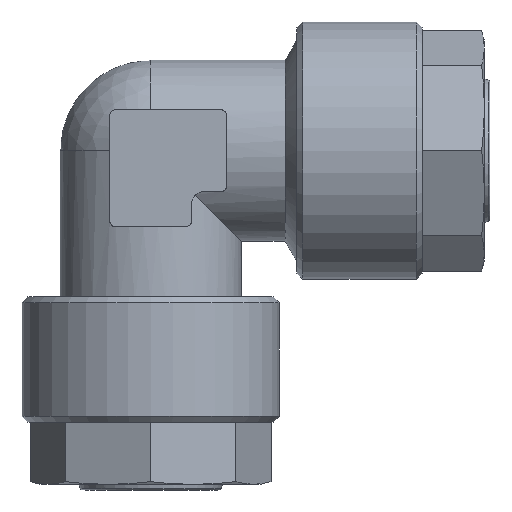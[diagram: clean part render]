
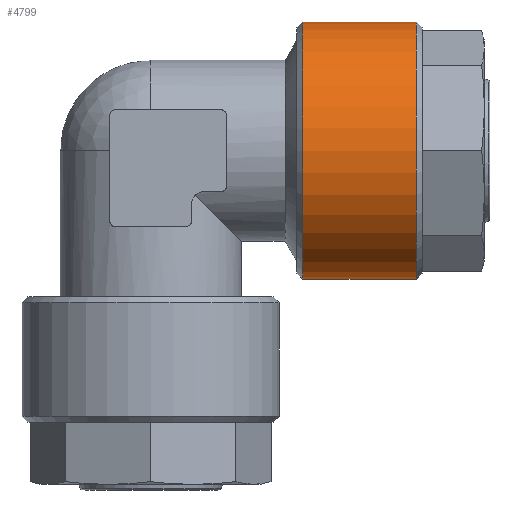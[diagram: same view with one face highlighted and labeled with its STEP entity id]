
A CAD part, front view. The second image highlights one B-rep face of the part: STEP entity #4799.
In plain terms, the highlighted cylindrical face has radius 11 mm (diameter 22 mm), a full revolution.
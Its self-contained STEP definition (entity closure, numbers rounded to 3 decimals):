
#2965=ORIENTED_EDGE('',*,*,#3492,.F.);
#2966=ORIENTED_EDGE('',*,*,#3493,.F.);
#3139=CIRCLE('',#4610,11.);
#3140=CIRCLE('',#4612,11.);
#3281=VERTEX_POINT('',#7189);
#3282=VERTEX_POINT('',#7192);
#3492=EDGE_CURVE('',#3281,#3281,#3139,.T.);
#3493=EDGE_CURVE('',#3282,#3282,#3140,.T.);
#3659=EDGE_LOOP('',(#2965));
#3660=EDGE_LOOP('',(#2966));
#3820=FACE_BOUND('',#3659,.T.);
#3821=FACE_BOUND('',#3660,.T.);
#4270=DIRECTION('',(0.,1.,0.));
#4271=DIRECTION('',(0.,0.,11.));
#4272=DIRECTION('',(0.,1.,0.));
#4273=DIRECTION('',(1.,0.,0.));
#4274=DIRECTION('',(0.,-1.,0.));
#4275=DIRECTION('',(0.,0.,11.));
#4610=AXIS2_PLACEMENT_3D('',#7190,#4270,#4271);
#4611=AXIS2_PLACEMENT_3D('',#7191,#4272,#4273);
#4612=AXIS2_PLACEMENT_3D('',#7193,#4274,#4275);
#4712=CYLINDRICAL_SURFACE('',#4611,11.);
#4799=ADVANCED_FACE('',(#3820,#3821),#4712,.T.);
#7189=CARTESIAN_POINT('',(26.989,24.795,11.));
#7190=CARTESIAN_POINT('',(26.989,24.795,0.));
#7191=CARTESIAN_POINT('',(26.989,15.095,0.));
#7192=CARTESIAN_POINT('',(26.989,15.095,11.));
#7193=CARTESIAN_POINT('',(26.989,15.095,0.));
